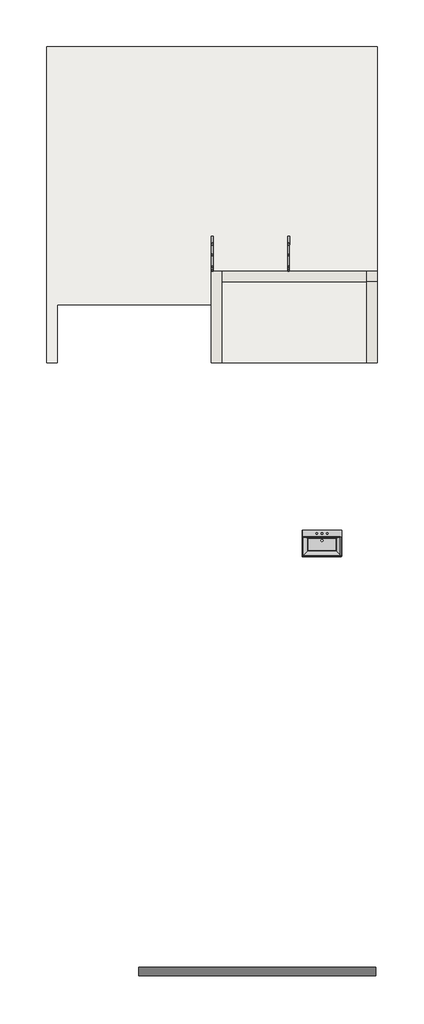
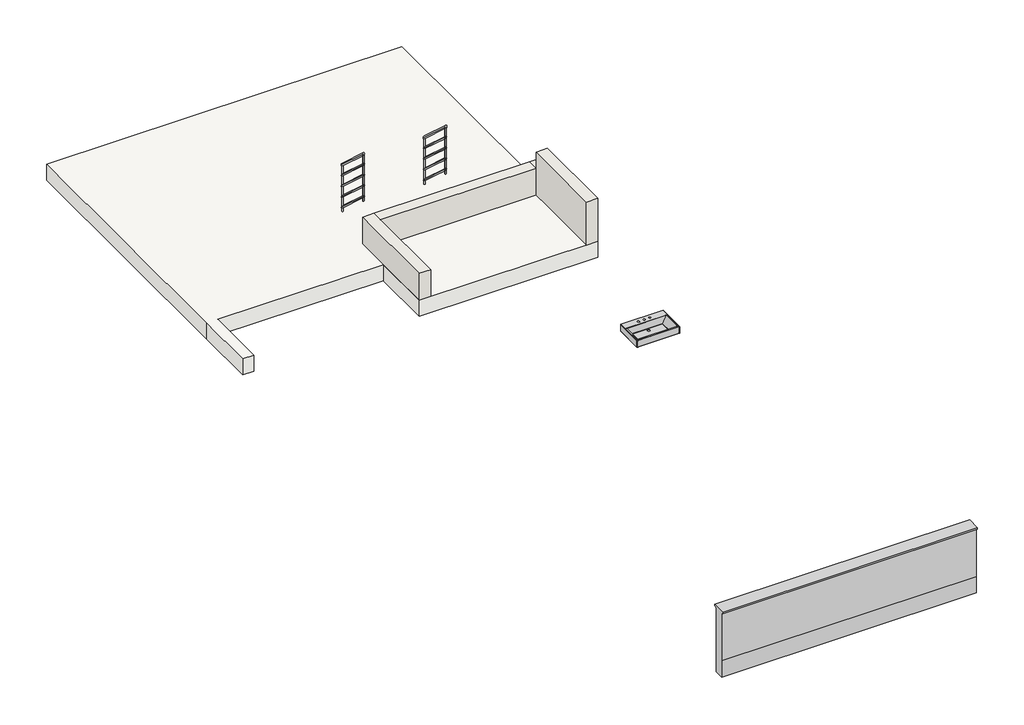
# One storey: 3 walls, 2 railings, 1 flow terminal, 1 proxy, 1 slab.
"""IFC4 building model written with IfcOpenShell, lengths in millimetres."""

from ifc_helpers import new_model, si_unit, frame, origin, place, context, project, spatial, polyline, outline, extrude, faceted_brep, transform, mapped, element, save
from components import flow_terminal_650_x_500mm_feced0cd, railing_900mm_pipe_2_48e39727, railing_900mm_pipe_2_317fbd75

model = new_model("IFC4")

# Units and contexts
model_context = context("Model", 3, world=origin())
ifc_project = project(units=[si_unit("LENGTHUNIT", "METRE", prefix="MILLI")], contexts=[model_context])

# Site, building, storey
site = spatial("IfcSite", under=ifc_project)
building = spatial("IfcBuilding", under=site)
storey = spatial("IfcBuildingStorey", under=building, Name="Dvorek", Elevation=-800.0)

# Proxy
placement = place(None, origin())
element("IfcBuildingElementProxy", 1, Name="Parapetto", ObjectType="Parapetto", at=placement, inside=storey, context=model_context, shape_type="SweptSolid", body=[
    extrude(outline(polyline([(-6901.7671527, -300.0), (-7061.7671527, -300.0), (-7061.7671527, 0.0), (-7061.7671527, 900.0), (-7091.7671527, 900.0), (-7091.7671527, 930.0), (-6851.7671527, 930.0), (-6851.7671527, 900.0), (-6901.7671527, 900.0), (-6901.7671527, 0.0), (-6901.7671527, -300.0)])), frame((-6388.8794248, 0.0, 0.0), z_axis=(1.0, 0.0, 0.0), x_axis=(0.0, 1.0, 0.0)), (0.0, 0.0, 1.0), 4503.5666245),
])

# Flow terminal
flow_terminal_650_x_500mm_shape = flow_terminal_650_x_500mm_feced0cd(model_context)
element("IfcFlowTerminal", 2, ObjectType="Umývadlo závěsné : 650 x 500mm", at=placement, inside=storey, context=model_context, shape_type="MappedRepresentation", body=[
    mapped(flow_terminal_650_x_500mm_shape, transform((-2785.3578922, 1460.6593598, -800.0), x_axis=(-1.0, 0.0, 0.0), y_axis=(0.0, -1.0, 0.0), z_axis=(0.0, 0.0, 1.0))),
])

# Railings
railing_900mm_pipe_2_shape = railing_900mm_pipe_2_48e39727(model_context)
element("IfcRailing", 3, ObjectType="900mm Pipe 2", at=placement, inside=storey, context=model_context, shape_type="MappedRepresentation", body=[
    mapped(railing_900mm_pipe_2_shape, transform((0.0, 0.0, 0.0), x_axis=(1.0, 0.0, 0.0), y_axis=(0.0, 1.0, 0.0), z_axis=(0.0, 0.0, 1.0))),
])
railing_900mm_pipe_2_2_shape = railing_900mm_pipe_2_317fbd75(model_context)
element("IfcRailing", 4, ObjectType="900mm Pipe 2", at=placement, inside=storey, context=model_context, shape_type="MappedRepresentation", body=[
    mapped(railing_900mm_pipe_2_2_shape, transform((0.0, 0.0, 0.0), x_axis=(1.0, 0.0, 0.0), y_axis=(0.0, 1.0, 0.0), z_axis=(0.0, 0.0, 1.0))),
])

# Slab
element("IfcSlab", 5, ObjectType="Generic 300mm", at=placement, inside=storey, context=model_context, shape_type="SweptSolid", body=[
    extrude(outline(polyline([(-1861.8266822, 4573.2328473), (-5011.8266822, 4573.2328473), (-5011.8266822, 5673.2328473), (-7936.8266822, 5673.2328473), (-7936.8266822, 4573.2328473), (-8136.8266822, 4573.2328473), (-8136.8266822, 5673.2328473), (-8136.8266822, 10573.2328473), (-1861.8266822, 10573.2328473), (-1861.8266822, 4573.2328473)])), frame((0.0, 0.0, -1100.0), z_axis=(0.0, 0.0, 1.0), x_axis=(1.0, 0.0, 0.0)), (0.0, 0.0, 1.0), 300.0),
])

# Walls
element("IfcWall", 6, ObjectType="Generic - 200mm", at=placement, inside=storey, context=model_context, shape_type="Brep", body=[
    faceted_brep([(-4811.8266822, 4576.7328473, -800.0), (-4811.8266822, 6113.2328473, -800.0), (-4811.8266822, 6313.2328473, -800.0), (-4811.8266822, 6313.2328473, -300.0), (-4811.8266822, 6113.2328473, -300.0), (-4811.8266822, 4576.7328473, -300.0), (-5011.8266822, 4576.7328473, -800.0), (-5011.8266822, 4576.7328473, -300.0), (-5011.8266822, 6313.2328473, -300.0), (-5011.8266822, 6313.2328473, -800.0)], [[[0, 1, 2, 3, 4, 5]], [[6, 7, 8, 9]], [[2, 1, 0, 6, 9]], [[3, 2, 9, 8]], [[0, 5, 7, 6]], [[5, 4, 3, 8, 7]]]),
])
element("IfcWall", 7, ObjectType="Generic - 200mm", at=placement, inside=storey, context=model_context, shape_type="Brep", body=[
    faceted_brep([(-4811.8266822, 6113.2328473, -800.0), (-2061.8266822, 6113.2328473, -800.0), (-1861.8266822, 6113.2328473, -800.0), (-1861.8266822, 6113.2328473, -300.0), (-2061.8266822, 6113.2328473, -300.0), (-4811.8266822, 6113.2328473, -300.0), (-4811.8266822, 6313.2328473, -800.0), (-4811.8266822, 6313.2328473, -300.0), (-2061.8266822, 6313.2328473, -300.0), (-1861.8266822, 6313.2328473, -300.0), (-1861.8266822, 6313.2328473, -800.0)], [[[0, 1, 2, 3, 4, 5]], [[6, 7, 8, 9, 10]], [[2, 1, 0, 6, 10]], [[3, 2, 10, 9]], [[0, 5, 7, 6]], [[4, 3, 9, 8]], [[5, 4, 8, 7]]]),
])
element("IfcWall", 8, ObjectType="Generic - 200mm", at=placement, inside=storey, context=model_context, shape_type="Brep", body=[
    faceted_brep([(-2061.8266822, 6113.2328473, -800.0), (-2061.8266822, 4573.2328473, -800.0), (-2061.8266822, 4573.2328473, 0.0), (-2061.8266822, 6113.2328473, 0.0), (-1861.8266822, 6113.2328473, -800.0), (-1861.8266822, 6113.2328473, -300.0), (-1861.8266822, 6113.2328473, 0.0), (-1861.8266822, 4573.2328473, 0.0), (-1861.8266822, 4573.2328473, -800.0)], [[[0, 1, 2, 3]], [[4, 5, 6, 7, 8]], [[1, 0, 4, 8]], [[3, 2, 7, 6]], [[0, 3, 6, 5, 4]], [[2, 1, 8, 7]]]),
])

save(model, "model.ifc")
